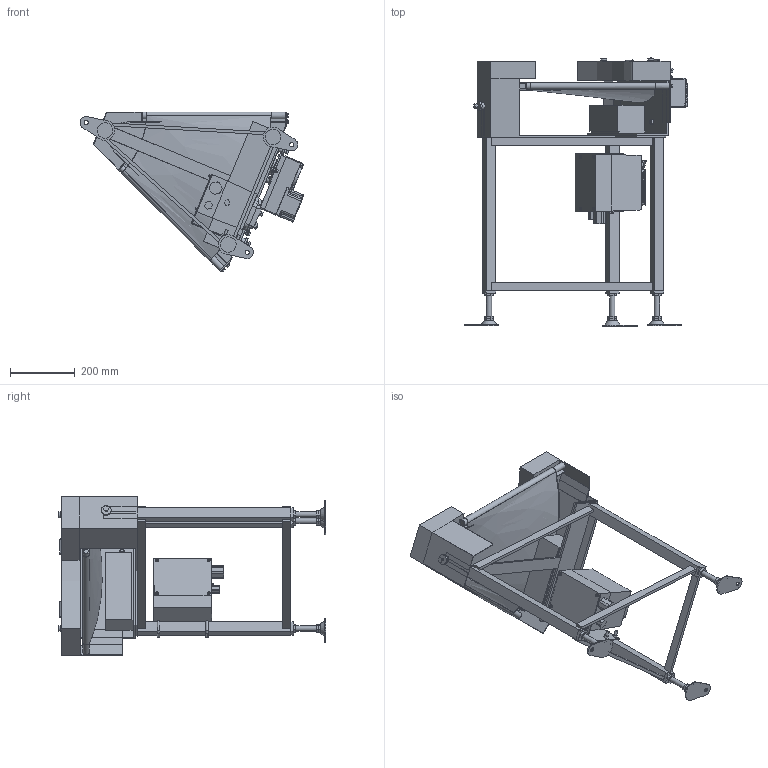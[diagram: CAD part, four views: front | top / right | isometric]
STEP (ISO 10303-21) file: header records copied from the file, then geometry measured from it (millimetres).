
FILE_DESCRIPTION (( 'STEP AP214' ), '1' );
FILE_NAME ('GFBC45-HS300-DC-R.STEP', '2023-04-20T02:17:00', ( '' ), ( '' ), 'SwSTEP 2.0', 'SolidWorks 2017', '' );
FILE_SCHEMA (( 'AUTOMOTIVE_DESIGN' ));
Length unit declared in the file: millimetre
Products named in the file (1): GFBC45-HS300-DC-R
Bounding box: 691.82 x 827.92 x 494.17 mm (x, y, z)
Volume: 15366216.6 mm3; surface area: 2640503.9 mm2
Topology: 65 solids, 66 shells, 1199 faces, 2750 edges, 1780 vertices
Faces by surface type: plane 864, cylinder 252, bspline 49, cone 20, torus 12, sphere 2
Full cylindrical faces by diameter (mm): 4 x4, 4.2 x2, 4.5 x1, 5 x4, 5.9 x4, 6 x13, 7 x1, 7.6 x4, 8 x23, 9 x12, 9.2 x1, 10 x7, 12 x2, 12.2 x2, 12.5 x7, 13 x9, 15 x4, 15.4 x1, 16 x9, 17 x2, 18 x2, 18.4 x1, 20 x7, 21 x1, 24 x1, 25 x1, 30 x6, 51 x1
Entity records: 53446 total; most frequent: CARTESIAN_POINT 13277, DIRECTION 5268, ORIENTED_EDGE 5076, EDGE_CURVE 2538, VECTOR 1796, LINE 1796, VERTEX_POINT 1737, AXIS2_PLACEMENT_3D 1736
